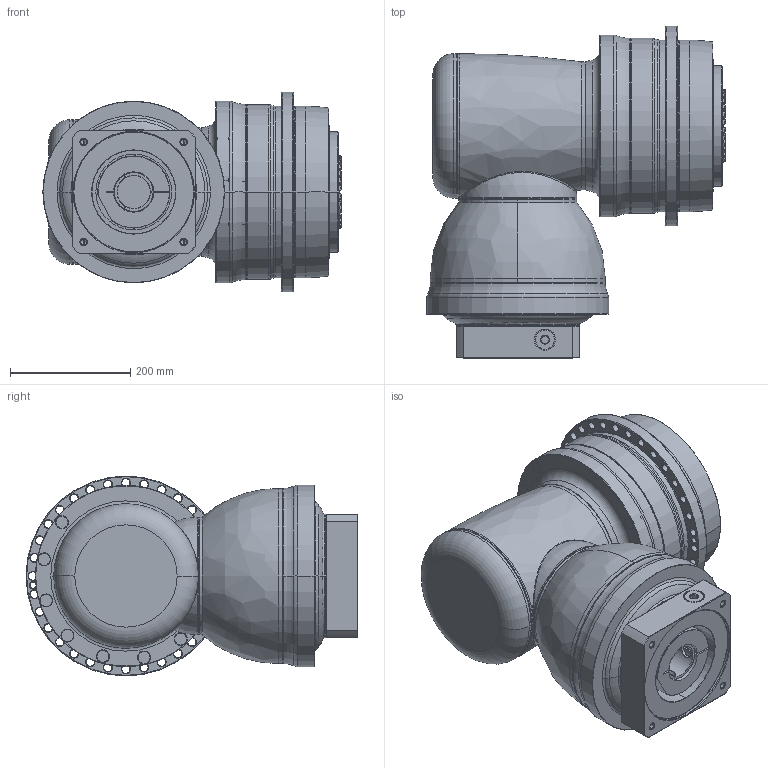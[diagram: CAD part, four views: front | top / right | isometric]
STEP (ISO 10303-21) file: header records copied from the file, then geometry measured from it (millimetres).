
FILE_DESCRIPTION((''),'2;1');
FILE_NAME('APCK285_2ST_SBG_55-P0409C00201_ASM','2018-05-21T',('d01226'),(''),'PRO/ENGINEER BY PARAMETRIC TECHNOLOGY CORPORATION, 2008410','PRO/ENGINEER BY PARAMETRIC TECHNOLOGY CORPORATION, 2008410','');
FILE_SCHEMA(('CONFIG_CONTROL_DESIGN'));
Length unit declared in the file: millimetre
Products named in the file (13): P0278801003; P03598G0103; P1211800001; P1802810001; P1018800002; P1365800001; P1007801001; P1318810401; P0409C00201; P0503C00016; P0912804001; 21711426021; APCK285_2ST_SBG_55-P0409C00201_ASM
Assembly tree (12 placements, depth 2):
  APCK285_2ST_SBG_55-P0409C00201_ASM
    P0278801003
    P03598G0103
    P1211800001
    P1802810001
    P1018800002
    P1365800001
    P1007801001
    P1318810401
    P0409C00201
    P0503C00016
    P0912804001
    21711426021
Bounding box: 495.6 x 551.5 x 332 mm (x, y, z)
Volume: 39403562.6 mm3; surface area: 1996593 mm2
Topology: 13 solids, 25 shells, 966 faces, 2295 edges, 1415 vertices
Faces by surface type: cone 304, cylinder 300, plane 185, torus 146, bspline 30, sphere 1
Entity records: 35283 total; most frequent: CARTESIAN_POINT 12249, DIRECTION 5191, ORIENTED_EDGE 4512, AXIS2_PLACEMENT_3D 2288, EDGE_CURVE 2281, VERTEX_POINT 1415, CIRCLE 1315, EDGE_LOOP 1124
